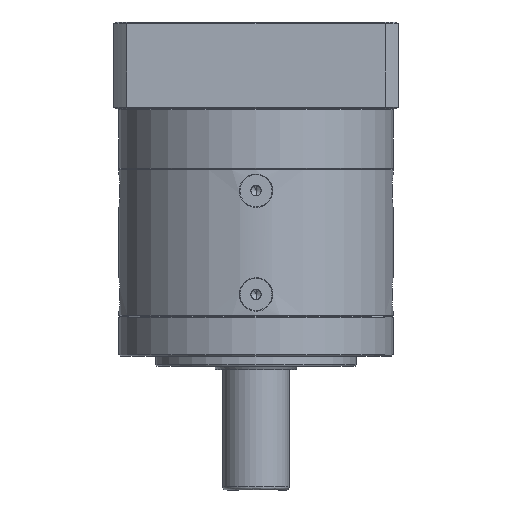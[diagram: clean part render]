
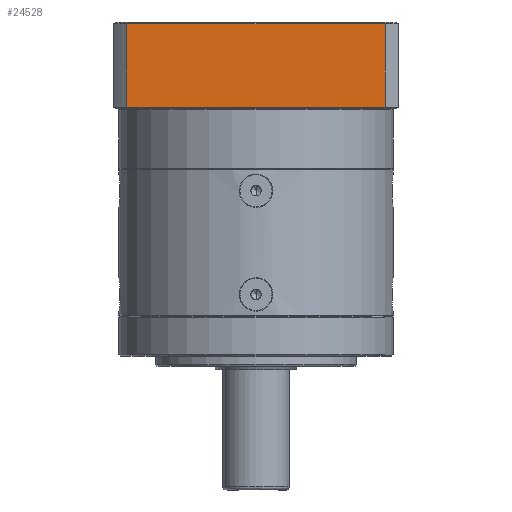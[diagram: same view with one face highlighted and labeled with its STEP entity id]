
A CAD part, front view. The second image highlights one B-rep face of the part: STEP entity #24528.
In plain terms, the highlighted planar face has unit normal (0, -1, 0).
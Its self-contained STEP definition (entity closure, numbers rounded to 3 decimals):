
#5351 = VECTOR ( 'NONE', #5494, 1000. ) ;
#5494 = DIRECTION ( 'NONE',  ( 0., 0., -1. ) ) ;
#8432 = LINE ( 'NONE', #34893, #5351 ) ;
#8843 = LINE ( 'NONE', #45889, #55177 ) ;
#10226 = ORIENTED_EDGE ( 'NONE', *, *, #124336, .F. ) ;
#11080 = VERTEX_POINT ( 'NONE', #88864 ) ;
#14902 = VERTEX_POINT ( 'NONE', #43383 ) ;
#14917 = LINE ( 'NONE', #115657, #90468 ) ;
#15185 = AXIS2_PLACEMENT_3D ( 'NONE', #31989, #100928, #41848 ) ;
#21956 = VERTEX_POINT ( 'NONE', #46761 ) ;
#23116 = VERTEX_POINT ( 'NONE', #25845 ) ;
#24528 = ADVANCED_FACE ( 'NONE', ( #26858 ), #120405, .F. ) ;
#25845 = CARTESIAN_POINT ( 'NONE',  ( 24.866, -38.488, 162.502 ) ) ;
#26851 = CARTESIAN_POINT ( 'NONE',  ( -52.594, -38.488, 188.002 ) ) ;
#26858 = FACE_OUTER_BOUND ( 'NONE', #111089, .T. ) ;
#31989 = CARTESIAN_POINT ( 'NONE',  ( 24.866, -38.488, 188.002 ) ) ;
#34893 = CARTESIAN_POINT ( 'NONE',  ( 24.866, -38.488, 188.002 ) ) ;
#41848 = DIRECTION ( 'NONE',  ( -1., 0., 0. ) ) ;
#43383 = CARTESIAN_POINT ( 'NONE',  ( 24.866, -38.488, 187.502 ) ) ;
#45889 = CARTESIAN_POINT ( 'NONE',  ( 24.866, -38.488, 162.502 ) ) ;
#46761 = CARTESIAN_POINT ( 'NONE',  ( -52.594, -38.488, 162.502 ) ) ;
#55177 = VECTOR ( 'NONE', #76004, 1000. ) ;
#63610 = ORIENTED_EDGE ( 'NONE', *, *, #117577, .F. ) ;
#64448 = EDGE_CURVE ( 'NONE', #21956, #23116, #8843, .T. ) ;
#76004 = DIRECTION ( 'NONE',  ( 1., 0., 0. ) ) ;
#77184 = LINE ( 'NONE', #26851, #126696 ) ;
#88864 = CARTESIAN_POINT ( 'NONE',  ( -52.594, -38.488, 187.502 ) ) ;
#90468 = VECTOR ( 'NONE', #125523, 1000. ) ;
#93158 = DIRECTION ( 'NONE',  ( 0., 0., 1. ) ) ;
#99931 = EDGE_CURVE ( 'NONE', #21956, #11080, #77184, .T. ) ;
#100928 = DIRECTION ( 'NONE',  ( 0., 1., 0. ) ) ;
#111089 = EDGE_LOOP ( 'NONE', ( #122881, #10226, #63610, #113720 ) ) ;
#113720 = ORIENTED_EDGE ( 'NONE', *, *, #99931, .F. ) ;
#115657 = CARTESIAN_POINT ( 'NONE',  ( 24.866, -38.488, 187.502 ) ) ;
#117577 = EDGE_CURVE ( 'NONE', #11080, #14902, #14917, .T. ) ;
#120405 = PLANE ( 'NONE',  #15185 ) ;
#122881 = ORIENTED_EDGE ( 'NONE', *, *, #64448, .T. ) ;
#124336 = EDGE_CURVE ( 'NONE', #14902, #23116, #8432, .T. ) ;
#125523 = DIRECTION ( 'NONE',  ( 1., 0., 0. ) ) ;
#126696 = VECTOR ( 'NONE', #93158, 1000. ) ;
